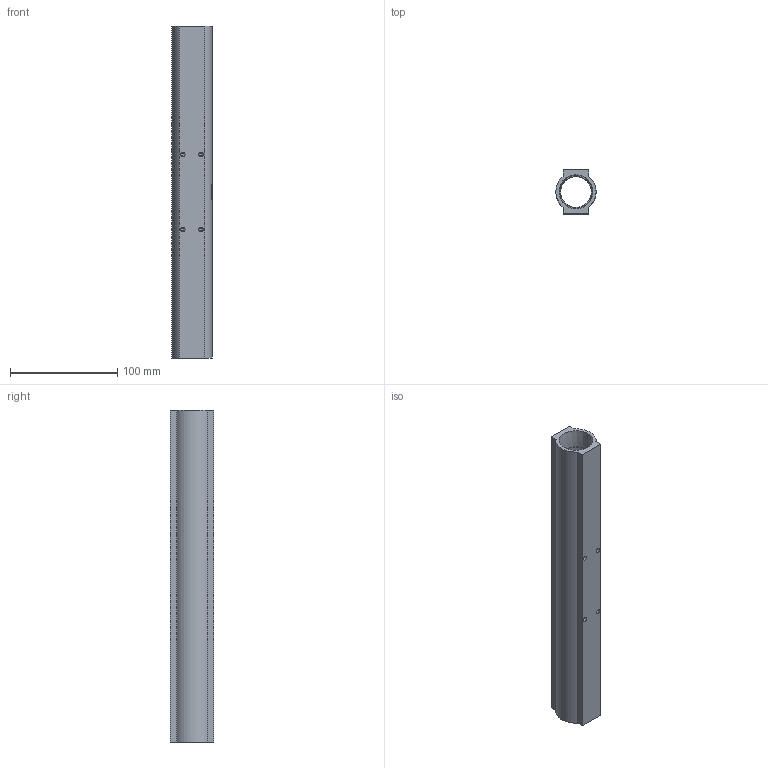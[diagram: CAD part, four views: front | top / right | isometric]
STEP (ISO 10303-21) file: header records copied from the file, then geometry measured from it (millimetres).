
FILE_DESCRIPTION (( 'STEP AP214' ), '1' );
FILE_NAME ('BWM6816B.STEP', '2022-03-15T04:36:50', ( '' ), ( '' ), 'SwSTEP 2.0', 'SolidWorks 2020', '' );
FILE_SCHEMA (( 'AUTOMOTIVE_DESIGN' ));
Length unit declared in the file: millimetre
Products named in the file (1): BWM6816B
Bounding box: 37.44 x 41 x 310 mm (x, y, z)
Volume: 167913.1 mm3; surface area: 71860.3 mm2
Topology: 1 solids, 1 shells, 216 faces, 574 edges, 376 vertices
Faces by surface type: plane 92, bspline 57, cylinder 43, cone 24
Entity records: 12170 total; most frequent: CARTESIAN_POINT 5426, ORIENTED_EDGE 1132, DIRECTION 720, EDGE_CURVE 566, VERTEX_POINT 376, LINE 276, VECTOR 276, EDGE_LOOP 254
